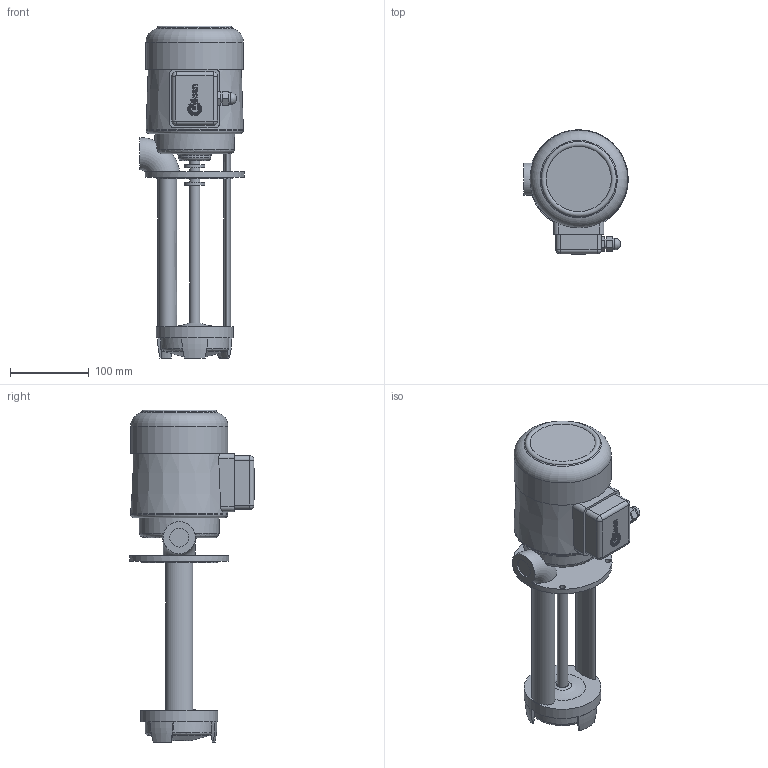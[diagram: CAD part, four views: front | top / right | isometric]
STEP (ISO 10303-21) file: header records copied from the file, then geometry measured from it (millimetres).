
FILE_DESCRIPTION(/* description */ ('Unknown'),/* implementation_level */ '2;1');
FILE_NAME(/* name */ 'CP22S',/* time_stamp */ '2025-05-30T09:24:57+03:00',/* author */ ('Unknown'),/* organization */ ('Unknown'),/* preprocessor_version */ 'ST-DEVELOPER v16.7',/* originating_system */ 'DEX',/* authorisation */ $);
FILE_SCHEMA (('AUTOMOTIVE_DESIGN {1 0 10303 214 3 1 1}'));
Length unit declared in the file: millimetre
Products named in the file (1): CP22S
Bounding box: 133.07 x 158.57 x 422.39 mm (x, y, z)
Volume: 2520782.9 mm3; surface area: 191144.5 mm2
Topology: 1 solids, 1 shells, 213 faces, 530 edges, 348 vertices
Faces by surface type: bspline 69, plane 68, cylinder 48, torus 23, cone 5
Full cylindrical faces by diameter (mm): 7 x4, 12 x1, 13.186 x4, 15 x1, 24 x1, 25.386 x2, 41.386 x1, 96.147 x1, 98 x1, 101.386 x1, 124 x1, 126.147 x1
Entity records: 8667 total; most frequent: CARTESIAN_POINT 4189, ORIENTED_EDGE 956, DIRECTION 723, EDGE_CURVE 478, VERTEX_POINT 336, EDGE_LOOP 298, FACE_BOUND 298, AXIS2_PLACEMENT_3D 272
